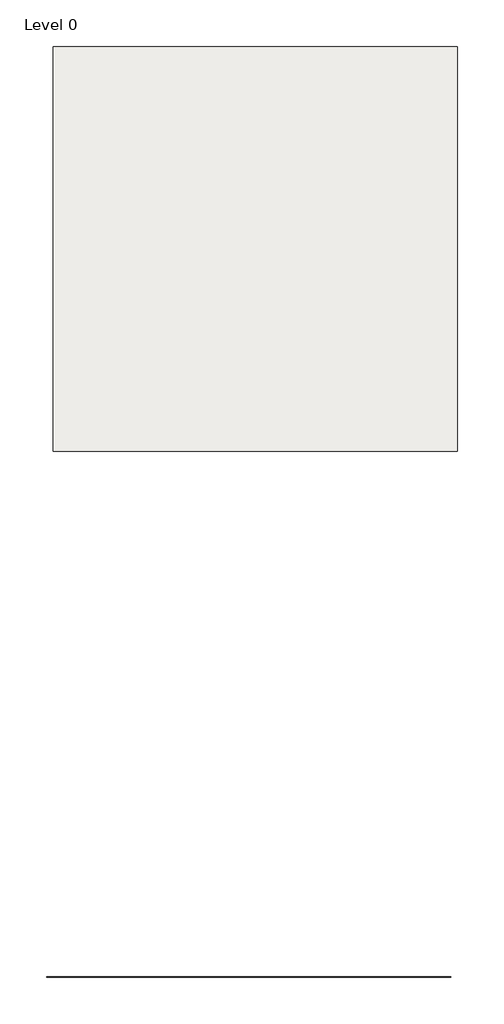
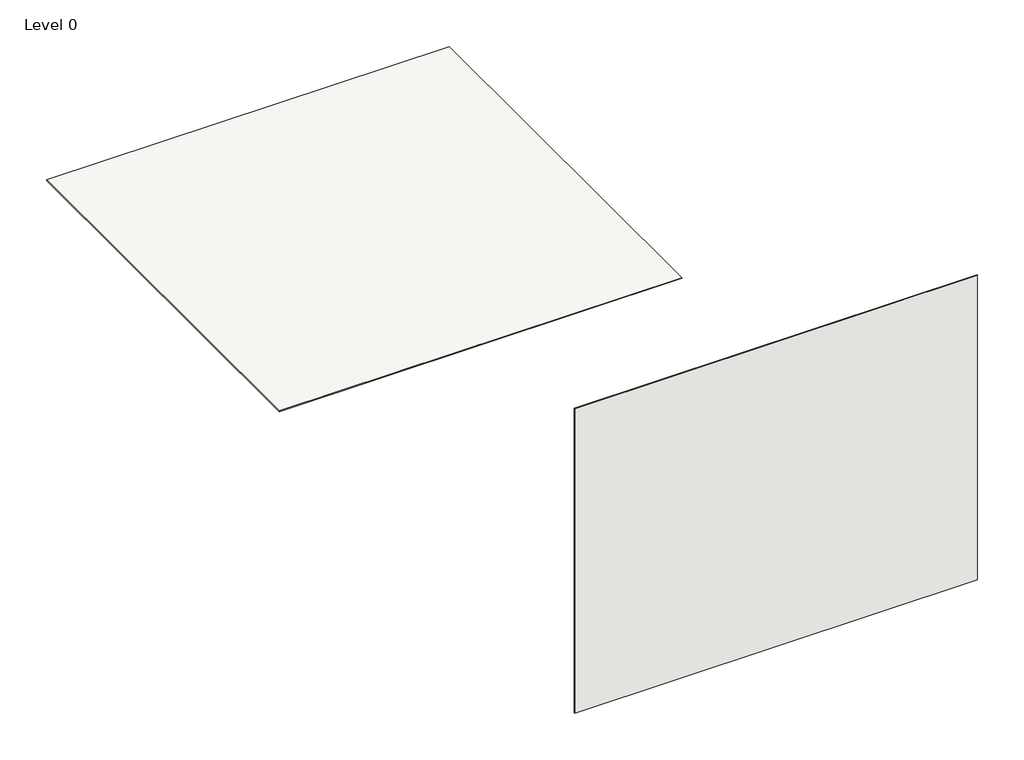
# One storey: 2 coverings.
"""IFC4 building model written with IfcOpenShell, lengths in millimetres."""

from ifc_helpers import new_model, si_unit, frame, origin, origin_with_axes, place, context, project, spatial, polyline, outline, extrude, element, save

model = new_model("IFC4")

# Units and contexts
model_context = context("Model", 3, world=origin())
ifc_project = project(units=[si_unit("LENGTHUNIT", "METRE", prefix="MILLI")], contexts=[model_context])

# Site, building, storey
site = spatial("IfcSite", under=ifc_project)
building = spatial("IfcBuilding", under=site)
storey = spatial("IfcBuildingStorey", under=building, Name="Level 0", Elevation=0.0)

# Coverings
placement = place(None, origin())
element("IfcCovering", 1, ObjectType="NBS_DeltaMembraneSystemsLtd_High-densityPolyethylenePE-HDStuddedSheets_DeltaFM-DampProofMembrane", at=placement, inside=storey, context=model_context, shape_type="SweptSolid", body=[
    extrude(outline(polyline([(1524.0, -4024.0), (1524.0, -1524.0), (4024.0, -1524.0), (4024.0, -4024.0), (1524.0, -4024.0)])), frame((0.0, 0.0, -4.0), z_axis=(0.0, 0.0, 1.0), x_axis=(1.0, 0.0, 0.0)), (0.0, 0.0, 1.0), 4.0),
])
element("IfcCovering", 2, ObjectType="NBS_DeltaMembraneSystemsLtd_High-densityPolyethylenePE-HDStuddedSheets_DeltaFM-DampProofMembrane", at=placement, inside=storey, context=model_context, shape_type="SweptSolid", body=[
    extrude(outline(polyline([(1483.5238434, -7268.6175905), (3983.5238434, -7268.6175905), (3983.5238434, -7272.6175905), (1483.5238434, -7272.6175905), (1483.5238434, -7268.6175905)])), origin_with_axes(), (0.0, 0.0, 1.0), 2000.0),
])

save(model, "model.ifc")
